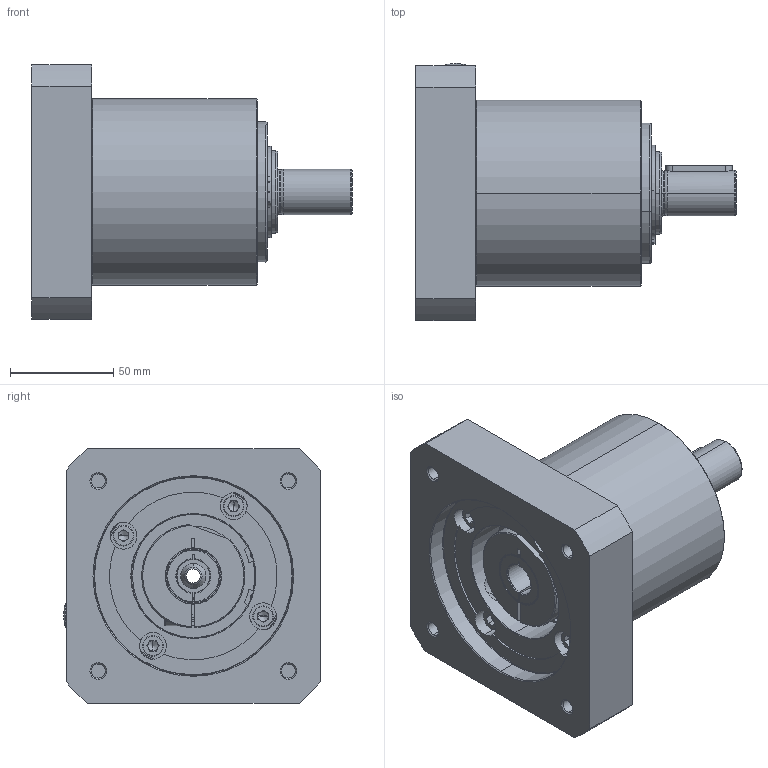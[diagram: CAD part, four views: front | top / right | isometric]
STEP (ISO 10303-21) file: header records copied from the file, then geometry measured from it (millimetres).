
FILE_DESCRIPTION (( 'STEP AP214' ), '1' );
FILE_NAME ('AL-020-0RR-FFF-MMM-S-LL-XXX-BXX-0000.STEP', '2019-10-23T15:26:48', ( '' ), ( '' ), 'SwSTEP 2.0', 'SolidWorks 2019', '' );
FILE_SCHEMA (( 'AUTOMOTIVE_DESIGN' ));
Length unit declared in the file: millimetre
Products named in the file (1): AL-020-0RR-FFF-MMM-S-LL-XXX-BXX-0000
Bounding box: 155 x 124.27 x 123 mm (x, y, z)
Surface area: 95817.3 mm2 (no closed solid volume)
Topology: 0 solids, 21 shells, 267 faces, 834 edges, 572 vertices
Faces by surface type: cylinder 90, plane 82, cone 57, torus 34, bspline 2, sphere 2
Entity records: 12740 total; most frequent: CARTESIAN_POINT 2417, DIRECTION 1629, ORIENTED_EDGE 1353, EDGE_CURVE 826, AXIS2_PLACEMENT_3D 639, VERTEX_POINT 572, CIRCLE 373, VECTOR 351
